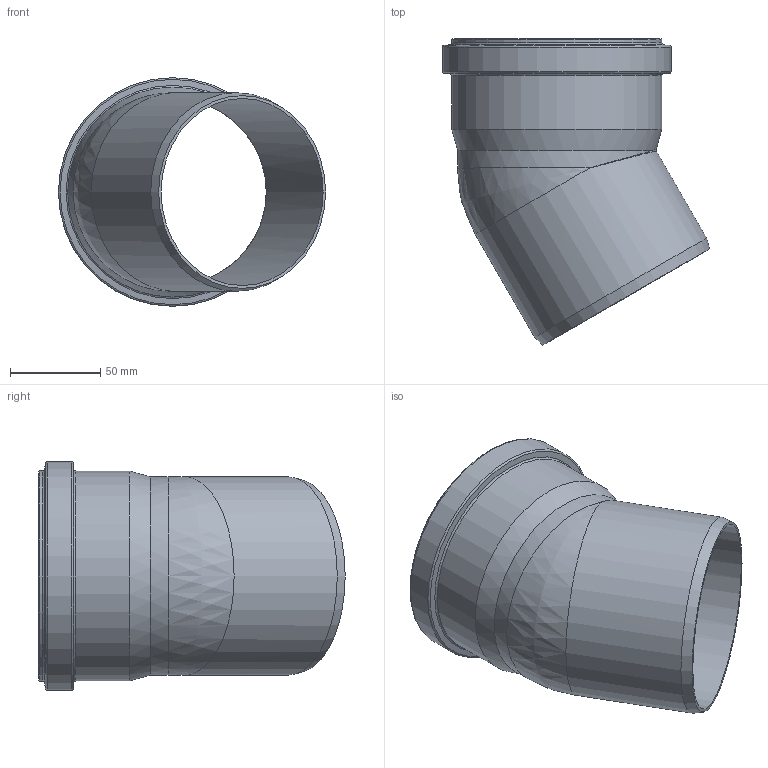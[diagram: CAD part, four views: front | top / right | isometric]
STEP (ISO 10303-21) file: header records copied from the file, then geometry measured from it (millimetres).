
FILE_DESCRIPTION(/* description */ (''),/* implementation_level */ '2;1');
FILE_NAME(/* name */ '220210.stp',/* time_stamp */ '2026-03-16T12:28:42+01:00',/* author */ ('corinna'),/* organization */ (''),/* preprocessor_version */ 'ST-DEVELOPER v20',/* originating_system */ 'Autodesk Inventor 2024',/* authorisation */ '');
FILE_SCHEMA (('AUTOMOTIVE_DESIGN { 1 0 10303 214 3 1 1 }'));
Length unit declared in the file: millimetre
Products named in the file (1): 220210
Bounding box: 148.28 x 170.03 x 126.9 mm (x, y, z)
Volume: 173353.7 mm3; surface area: 113883.4 mm2
Topology: 1 solids, 1 shells, 36 faces, 96 edges, 61 vertices
Faces by surface type: cylinder 11, torus 10, cone 7, bspline 5, plane 3
Full cylindrical faces by diameter (mm): 103.8 x2, 110.2 x1, 110.7 x1, 111 x2, 116.5 x1, 116.8 x1, 121.1 x1, 126.9 x1
Entity records: 1363 total; most frequent: CARTESIAN_POINT 400, DIRECTION 215, ORIENTED_EDGE 188, AXIS2_PLACEMENT_3D 99, EDGE_CURVE 94, CIRCLE 61, VERTEX_POINT 61, EDGE_LOOP 39
